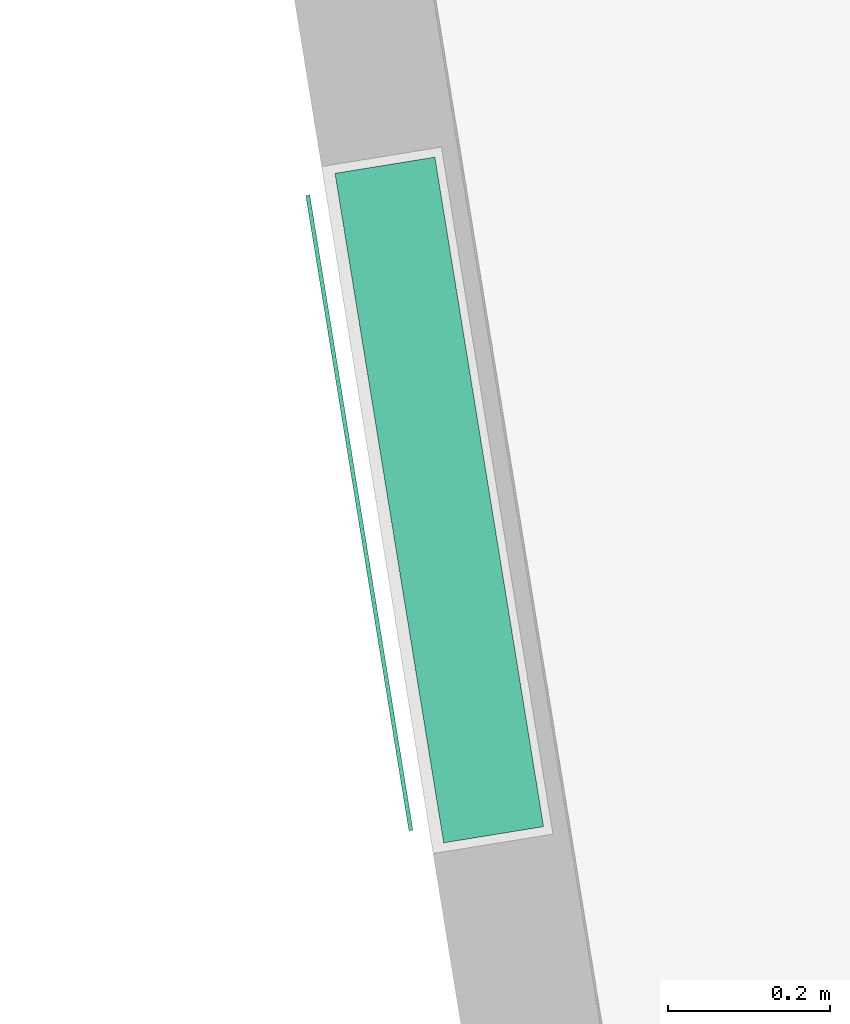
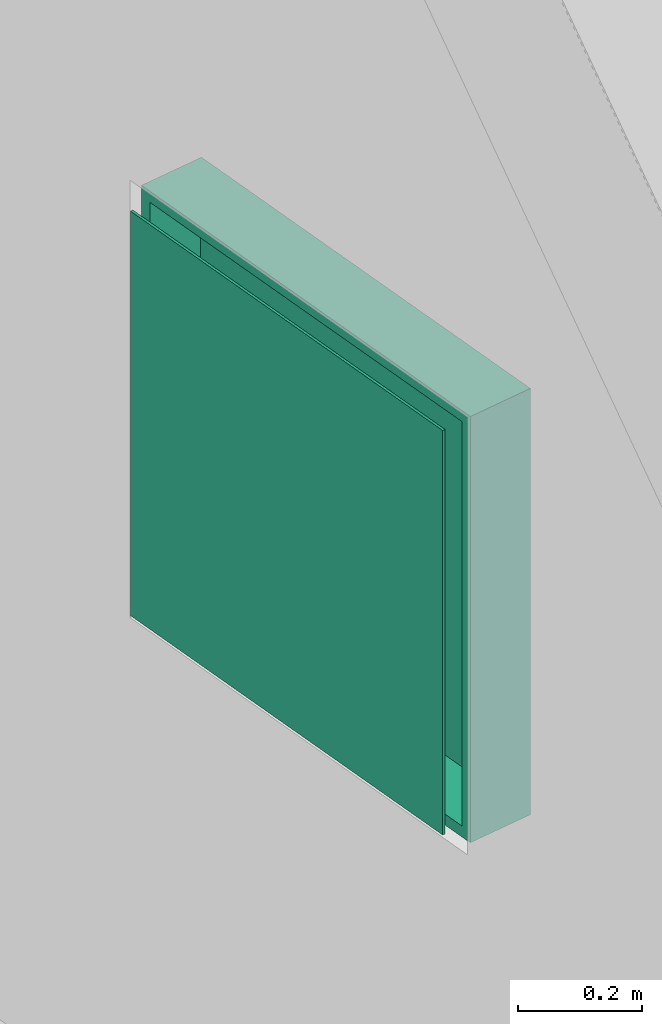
# One storey, part 35 of 38: 1 flow terminal.
"""IFC2X3 building model written with IfcOpenShell, lengths in millimetres."""

from ifc_helpers import new_model, entity, si_unit, converted_unit, derived_unit, direction, frame, origin, origin_with_axes, place, context, subcontext, project, spatial, faceted_brep, source, transform, mapped, material, type_object, element, save


model = new_model("IFC2X3")

# Units and contexts
model_context = context("Model", 3, precision=0.01, world=origin(), true_north=direction((6.12323399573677e-17, 1.0)))
plan_context = context("Plan", 3, precision=1e-05, world=origin_with_axes())
body_context = subcontext(model_context, "Body", "Model", "MODEL_VIEW")
ifc_project = project(units=[converted_unit("PLANEANGLEUNIT", "DEGREE", entity("IfcPositiveLengthMeasure", 0.0174532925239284), si_unit("PLANEANGLEUNIT", "RADIAN"), dimensions=[0, 0, 0, 0, 0, 0, 0]), si_unit("AREAUNIT", "SQUARE_METRE"), si_unit("LENGTHUNIT", "METRE", prefix="MILLI"), si_unit("MASSUNIT", "GRAM", prefix="KILO"), si_unit("POWERUNIT", "WATT"), si_unit("PRESSUREUNIT", "PASCAL", prefix="KILO"), si_unit("FORCEUNIT", "NEWTON", prefix="KILO"), si_unit("ELECTRICVOLTAGEUNIT", "VOLT"), si_unit("ELECTRICCURRENTUNIT", "AMPERE"), si_unit("THERMODYNAMICTEMPERATUREUNIT", "DEGREE_CELSIUS"), si_unit("TIMEUNIT", "SECOND"), si_unit("VOLUMEUNIT", "CUBIC_METRE"), derived_unit("LINEARVELOCITYUNIT", [(si_unit("LENGTHUNIT", "METRE"), 1), (si_unit("TIMEUNIT", "SECOND"), -1)]), derived_unit("VOLUMETRICFLOWRATEUNIT", [(si_unit("VOLUMEUNIT", "CUBIC_METRE"), 1), (si_unit("TIMEUNIT", "SECOND"), -1)]), derived_unit("THERMALTRANSMITTANCEUNIT", [(si_unit("POWERUNIT", "WATT"), 1), (si_unit("THERMODYNAMICTEMPERATUREUNIT", "KELVIN"), -1), (si_unit("AREAUNIT", "SQUARE_METRE"), -1)]), derived_unit("SOUNDPRESSUREUNIT", [(si_unit("PRESSUREUNIT", "PASCAL"), 1)])], contexts=[model_context, plan_context])

# Site, building, storey
site_placement = place(None, frame((-0.00071070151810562, 0.00438415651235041, 0.0), z_axis=(0.0, 0.0, 1.0), x_axis=(-0.160236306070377, 0.987078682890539, 0.0)))
site = spatial("IfcSite", under=ifc_project, at=site_placement, Name="Default", CompositionType="ELEMENT")
building_placement = place(site_placement, origin_with_axes())
building = spatial("IfcBuilding", under=site, at=building_placement, Name="TOO", CompositionType="ELEMENT")
storey_placement = place(building_placement, frame((0.0, 0.0, 50999.9999999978), z_axis=(0.0, 0.0, 1.0), x_axis=(1.0, 0.0, 0.0)))
storey = spatial("IfcBuildingStorey", under=building, at=storey_placement, Name="Nivå D-H01", CompositionType="ELEMENT", Elevation=50999.9999999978)

# Flow terminal
ifc_material = material(Name="<Unnamed>")
distribution_element_type = type_object("IfcDistributionElementType", Name="A278 - Brannskap innfelt i innbyggingsskap:A278 - Brannskap innfelt i innbyggingsskap", material=ifc_material)
shared_shape = source(origin(), body_context, "Body", "Brep", [
    faceted_brep([(544.0, 70.0, -50150.9999999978), (544.0, 70.0, -50988.9999999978), (-294.0, 70.0, -50988.9999999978), (-294.0, 70.0, -50150.9999999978), (-272.500000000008, 70.0, -50172.4999999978), (-272.500000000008, 70.0, -50967.4999999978), (522.499999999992, 70.0, -50967.4999999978), (522.499999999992, 70.0, -50172.4999999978), (544.0, -55.0, -50150.9999999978), (-294.0, -55.0, -50150.9999999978), (-294.0, -55.0, -50988.9999999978), (544.0, -55.0, -50988.9999999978), (-272.500000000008, -35.0, -50172.4999999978), (522.499999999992, -35.0, -50172.4999999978), (522.499999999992, -35.0, -50967.4999999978), (-272.500000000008, -35.0, -50967.4999999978)], [[[0, 1, 2, 3], [4, 5, 6, 7]], [[8, 9, 10, 11]], [[0, 3, 9, 8]], [[3, 2, 10, 9]], [[2, 1, 11, 10]], [[1, 0, 8, 11]], [[12, 13, 14, 15]], [[12, 15, 5, 4]], [[15, 14, 6, 5]], [[14, 13, 7, 6]], [[13, 12, 4, 7]]]),
    faceted_brep([(-272.500000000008, 105.0, -50172.4999999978), (-272.500000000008, 105.0, -50967.4999999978), (522.499999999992, 105.0, -50967.4999999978), (522.499999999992, 105.0, -50172.4999999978), (-272.500000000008, 110.0, -50172.4999999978), (522.499999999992, 110.0, -50172.4999999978), (522.499999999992, 110.0, -50967.4999999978), (-272.500000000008, 110.0, -50967.4999999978)], [[[0, 1, 2, 3]], [[4, 5, 6, 7]], [[1, 0, 4, 7]], [[2, 1, 7, 6]], [[3, 2, 6, 5]], [[0, 3, 5, 4]]]),
])
flow_terminal_placement = place(storey_placement, frame((776333.619644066, -588977.48173883, 51899.9999999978), z_axis=(0.0, 0.0, 1.0), x_axis=(1.0, 0.0, 0.0)))
element("IfcFlowTerminal", 1, at=flow_terminal_placement, inside=storey, type_object=distribution_element_type, material=ifc_material, Name="A278 - Brannskap innfelt i innbyggingsskap:A278 - Brannskap innfelt i innbyggingsskap", ObjectType="A278 - Brannskap innfelt i innbyggingsskap:A278 - Brannskap innfelt i innbyggingsskap", context=body_context, shape_type="MappedRepresentation", body=[
    mapped(shared_shape, transform((0.0, 0.0, 0.0), scale=1.0)),
])

save(model, "model.ifc")
